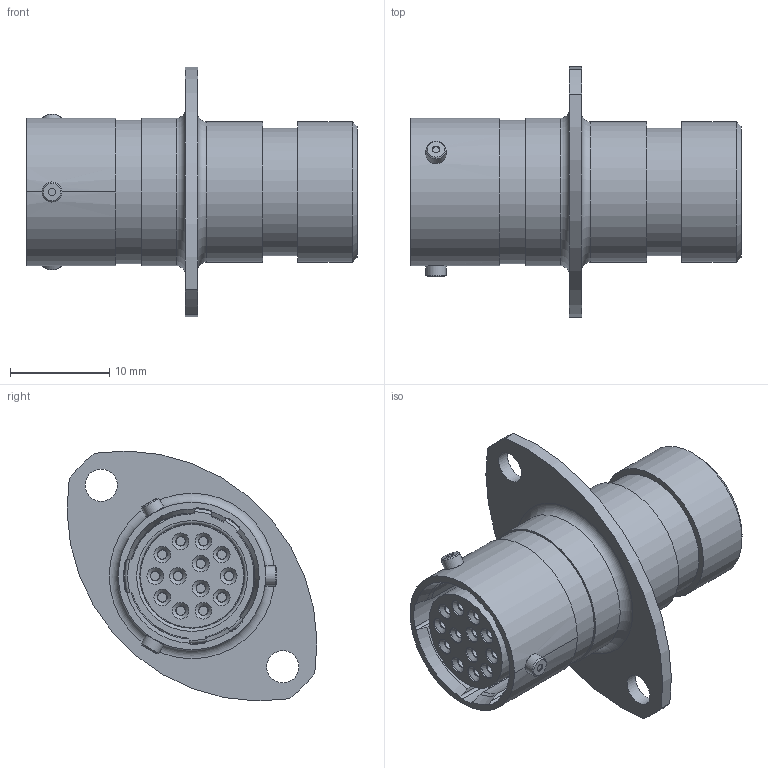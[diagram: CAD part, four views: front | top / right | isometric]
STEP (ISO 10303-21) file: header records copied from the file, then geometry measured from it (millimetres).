
FILE_DESCRIPTION(/* description */ ('STEP AP214'),/* implementation_level */ '2;1');
FILE_NAME(/* name */ 'AS010-35SN.step',/* time_stamp */ '',/* author */ (''),/* organization */ (''),/* preprocessor_version */ 'ST-DEVELOPER v20.1',/* originating_system */ 'Autodesk Translation Framework v15.8.0.0',/* authorisation */ '');
FILE_SCHEMA (('AUTOMOTIVE_DESIGN { 1 0 10303 214 3 1 1 }'));
Length unit declared in the file: inch
Products named in the file (1): AS010-35SN
Bounding box: 33.31 x 25.21 x 25.21 mm (x, y, z)
Volume: 4215.1 mm3; surface area: 5644.6 mm2
Topology: 1 solids, 2 shells, 510 faces, 1145 edges, 715 vertices
Faces by surface type: torus 170, cylinder 147, plane 95, cone 80, sphere 18
Full cylindrical faces by diameter (mm): 0.53 x13, 0.571 x3, 0.61 x13, 0.76 x3, 0.93 x13, 1.65 x39, 1.68 x13, 1.78 x3, 1.87 x3, 2.03 x3, 3.25 x2, 10.41 x1, 10.58 x1, 11.05 x1, 11.67 x1, 12 x1, 12.24 x1, 12.9 x1, 13.6 x1, 13.99 x1, 14.14 x1, 14.17 x1, 14.5 x1, 14.89 x1
Entity records: 15416 total; most frequent: DIRECTION 2953, CARTESIAN_POINT 2747, ORIENTED_EDGE 2304, AXIS2_PLACEMENT_3D 1346, EDGE_CURVE 1152, CIRCLE 833, VERTEX_POINT 715, EDGE_LOOP 597
